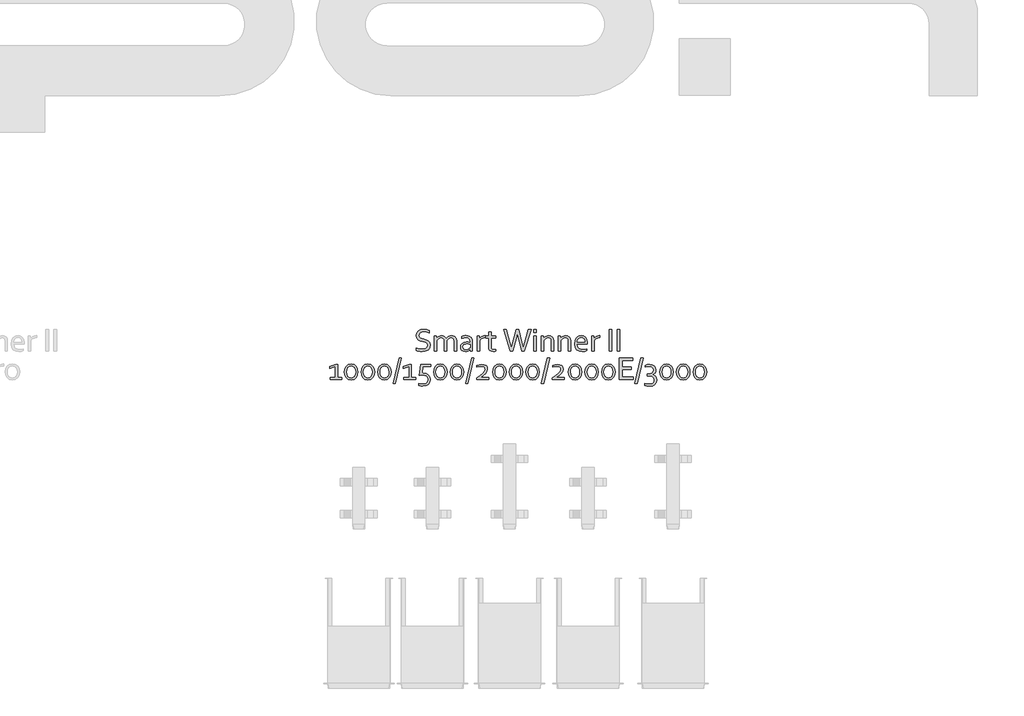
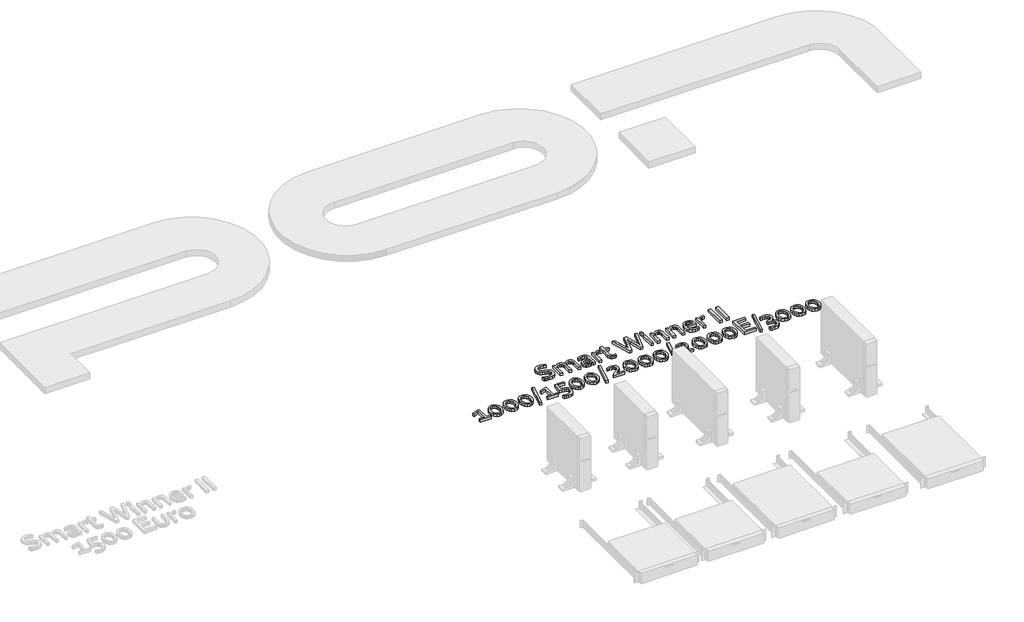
# One storey, part 9 of 10: 1 proxy.
"""IFC4 building model written with IfcOpenShell, lengths in millimetres."""

from ifc_helpers import new_model, si_unit, origin, origin_with_axes, place, context, project, spatial, polyline, outline, extrude, element, save

model = new_model("IFC4")

# Units and contexts
model_context = context("Model", 3, world=origin())
ifc_project = project(units=[si_unit("LENGTHUNIT", "METRE", prefix="MILLI")], contexts=[model_context])

# Site, building, storey
site = spatial("IfcSite", under=ifc_project)
building = spatial("IfcBuilding", under=site)
storey = spatial("IfcBuildingStorey", under=building, Name="Этаж 01", Elevation=0.0)

# Proxy
placement = place(None, origin())
element("IfcBuildingElementProxy", 1, Name="150 мм Corbel", ObjectType="150 мм Corbel", at=placement, inside=storey, context=model_context, shape_type="SweptSolid", body=[
    extrude(outline(polyline([(8243.4945132, 936.8855088), (8246.2289116, 925.8822898), (8253.5570992, 918.7072285), (8264.2321904, 914.0696889), (8276.9197988, 910.6790349), (8294.3980731, 905.9321193), (8309.6888288, 898.757058), (8320.5389215, 886.8350812), (8324.695207, 867.9786701), (8320.2107937, 847.722247), (8307.8294379, 833.7002522), (8289.2792794, 825.5626827), (8265.938455, 822.9157851), (8254.0164781, 823.6376662), (8242.3570035, 825.5845579), (8232.3162927, 828.3845818), (8225.2506073, 831.4908583), (8225.2506073, 848.1160004), (8234.3288099, 844.681596), (8244.763274, 842.0346984), (8255.6352419, 840.3284338), (8265.938455, 839.7159286), (8280.922958, 841.050315), (8293.4136897, 845.5128531), (8301.9450126, 854.0223008), (8305.0950395, 867.5411663), (8302.2950156, 878.7193868), (8294.8355769, 886.0038241), (8284.0729849, 890.6851141), (8271.2322502, 894.0976432), (8253.8196014, 898.6476821), (8238.6600969, 905.7133675), (8227.9412553, 917.3509669), (8223.8943457, 935.5292472), (8228.138132, 955.3481665), (8239.6226051, 969.0857839), (8256.1821216, 977.1139775), (8276.0447913, 979.7171247), (8298.4012323, 977.4202301), (8317.3888945, 971.4483041), (8317.3888945, 954.5169094), (8298.1606053, 960.5107106), (8276.9197988, 962.9169812), (8262.1102973, 961.0794655), (8251.6977083, 955.8512958), (8245.5289056, 947.6262256), (8243.4945132, 936.8855088)])), origin_with_axes(), (0.0, 0.0, 1.0), 20.0),
    extrude(outline(polyline([(8439.4961878, 825.715809), (8422.6960443, 825.715809), (8422.6960443, 894.7976492), (8421.1647812, 906.7196261), (8416.7022431, 914.8134452), (8409.7240584, 919.4509848), (8400.6458559, 920.9166224), (8383.4300838, 915.6884527), (8369.4955897, 901.3164549), (8369.4955897, 825.715809), (8352.6954462, 825.715809), (8352.6954462, 932.116718), (8366.126811, 932.116718), (8369.4518394, 917.3290917), (8376.1456466, 924.1979004), (8383.7363364, 929.8198234), (8392.9457901, 933.5823556), (8403.9271339, 934.916742), (8414.7772266, 933.489386), (8423.6148021, 929.2073182), (8435.6899053, 913.6540603), (8452.3806729, 929.2729438), (8473.6652297, 934.916742), (8485.6090818, 933.3417285), (8497.2029308, 927.5666792), (8505.996756, 915.9728301), (8509.4967859, 896.9414175), (8509.4967859, 825.715809), (8492.6966423, 825.715809), (8492.6966423, 894.7976492), (8491.1653793, 906.7196261), (8486.7247163, 914.8134452), (8479.7684069, 919.4509848), (8470.6902043, 920.9166224), (8453.4525571, 915.6884527), (8439.4961878, 901.3164549), (8439.4961878, 825.715809)])), origin_with_axes(), (0.0, 0.0, 1.0), 20.0),
    extrude(outline(polyline([(8605.2226037, 837.4846595), (8599.4256792, 832.1689891), (8592.0099909, 827.4439487), (8582.8224124, 824.1407955), (8572.1910715, 822.9157851), (8558.1690767, 825.1689293), (8547.2096081, 831.7971109), (8540.056422, 842.450327), (8537.4970251, 856.6910736), (8540.3407994, 870.6911932), (8548.3033674, 881.1694078), (8560.6190977, 887.7975894), (8576.5223585, 890.1163592), (8591.7693638, 888.6288465), (8604.2600955, 885.2600677), (8604.6975993, 892.8726328), (8604.1288444, 901.207079), (8602.203828, 907.5727583), (8592.9287487, 917.132215), (8575.6473511, 920.9166224), (8560.4440962, 919.4291096), (8546.2908502, 915.3165745), (8546.2908502, 929.0104415), (8552.6127793, 931.3948369), (8560.2909699, 933.2979781), (8568.8004176, 934.5011134), (8577.7911194, 934.916742), (8592.4256194, 933.489386), (8604.0413437, 929.2073182), (8612.7039177, 922.5736678), (8618.478967, 914.091564), (8620.7977368, 906.1946216), (8621.4977428, 896.7226656), (8621.4977428, 825.715809), (8607.1038698, 825.715809), (8605.2226037, 837.4846595)]), holes=[polyline([(8604.6975993, 872.1349556), (8593.081875, 874.7381028), (8578.3161239, 876.1162396), (8560.662848, 871.3474488), (8555.8885885, 865.2989597), (8554.2971686, 856.6910736), (8555.8940573, 847.9409989), (8560.2690947, 841.750321), (8566.8535259, 838.1190399), (8574.9910955, 836.9159047), (8585.5786859, 838.5565437), (8594.2850103, 842.4722021), (8600.7600656, 847.022241), (8604.6975993, 850.5660213), (8604.6975993, 872.1349556)])]), origin_with_axes(), (0.0, 0.0, 1.0), 20.0),
    extrude(outline(polyline([(8712.8922737, 920.9166224), (8699.4609089, 919.7572375), (8688.3045636, 916.2353324), (8678.8982332, 910.3946575), (8671.8981734, 902.1914624), (8671.8981734, 825.715809), (8655.0980299, 825.715809), (8655.0980299, 932.116718), (8668.0918909, 932.116718), (8671.3294186, 915.1853234), (8677.9794754, 922.9291396), (8686.4451727, 929.2073182), (8696.7702609, 933.4073541), (8708.5609867, 934.916742), (8710.8360061, 934.8729916), (8712.8922737, 934.7417405), (8712.8922737, 920.9166224)])), origin_with_axes(), (0.0, 0.0, 1.0), 20.0),
    extrude(outline(polyline([(8786.4804024, 825.3220556), (8779.6553441, 823.7470422), (8768.6740002, 822.9157851), (8754.1926265, 825.015803), (8744.1519157, 831.0096042), (8738.2456153, 840.4378098), (8736.2987236, 852.75354), (8736.2987236, 918.1165984), (8715.7797983, 918.1165984), (8715.7797983, 932.116718), (8736.2987236, 932.116718), (8736.2987236, 960.1169573), (8753.0988672, 960.1169573), (8753.0988672, 932.116718), (8784.9053889, 932.116718), (8784.9053889, 918.1165984), (8753.0988672, 918.1165984), (8753.0988672, 854.5035549), (8754.1488761, 847.4816199), (8757.4957797, 841.9034473), (8763.380205, 838.2284159), (8772.042779, 836.9159047), (8779.3709666, 837.4846595), (8786.4804024, 838.9284219), (8786.4804024, 825.3220556)])), origin_with_axes(), (0.0, 0.0, 1.0), 20.0),
    extrude(outline(polyline([(8939.2567077, 951.9356374), (8930.5941337, 915.5353264), (8907.1439333, 825.715809), (8888.4187733, 825.715809), (8842.6996327, 976.9171008), (8862.2998002, 976.9171008), (8886.975011, 888.1913428), (8896.9938466, 849.7785146), (8902.2657666, 870.2318143), (8906.8814311, 887.9725909), (8929.5003743, 976.9171008), (8949.1005418, 976.9171008), (8971.1507302, 887.9725909), (8980.3383087, 849.7785146), (8991.0571503, 888.1913428), (9016.3011159, 976.9171008), (9035.9012834, 976.9171008), (8989.4821368, 825.715809), (8970.7569768, 825.715809), (8947.7880306, 915.5353264), (8939.2567077, 951.9356374)])), origin_with_axes(), (0.0, 0.0, 1.0), 20.0),
    extrude(outline(polyline([(9055.5014509, 957.3169334), (9055.5014509, 976.9171008), (9072.3015944, 976.9171008), (9072.3015944, 957.3169334), (9055.5014509, 957.3169334)])), origin_with_axes(), (0.0, 0.0, 1.0), 20.0),
    extrude(outline(polyline([(9055.5014509, 825.715809), (9055.5014509, 932.116718), (9072.3015944, 932.116718), (9072.3015944, 825.715809), (9055.5014509, 825.715809)])), origin_with_axes(), (0.0, 0.0, 1.0), 20.0),
    extrude(outline(polyline([(9125.4145482, 917.3290917), (9132.1302306, 924.1979004), (9139.9834227, 929.8198234), (9149.499129, 933.5823556), (9160.7648502, 934.916742), (9174.3712165, 932.9042248), (9185.3744355, 926.4072943), (9192.7682486, 914.7040693), (9195.502647, 896.9414175), (9195.502647, 825.715809), (9178.7025035, 825.715809), (9178.7025035, 894.7976492), (9177.3571795, 906.7579076), (9173.3212075, 914.8134452), (9166.714901, 919.3908281), (9157.6585737, 920.9166224), (9140.1146738, 915.6884527), (9125.5020489, 901.3164549), (9125.5020489, 825.715809), (9108.7019054, 825.715809), (9108.7019054, 932.116718), (9122.0457694, 932.116718), (9125.4145482, 917.3290917)])), origin_with_axes(), (0.0, 0.0, 1.0), 20.0),
    extrude(outline(polyline([(9245.8155769, 917.3290917), (9252.5312592, 924.1979004), (9260.3844513, 929.8198234), (9269.9001576, 933.5823556), (9281.1658789, 934.916742), (9294.7722451, 932.9042248), (9305.7754641, 926.4072943), (9313.1692773, 914.7040693), (9315.9036757, 896.9414175), (9315.9036757, 825.715809), (9299.1035321, 825.715809), (9299.1035321, 894.7976492), (9297.7582082, 906.7579076), (9293.7222362, 914.8134452), (9287.1159297, 919.3908281), (9278.0596023, 920.9166224), (9260.5157025, 915.6884527), (9245.9030776, 901.3164549), (9245.9030776, 825.715809), (9229.1029341, 825.715809), (9229.1029341, 932.116718), (9242.4467981, 932.116718), (9245.8155769, 917.3290917)])), origin_with_axes(), (0.0, 0.0, 1.0), 20.0),
    extrude(outline(polyline([(9399.2481378, 836.9159047), (9415.0201475, 838.3815422), (9429.2171438, 842.5159525), (9429.2171438, 828.6908344), (9415.0857731, 824.4689233), (9397.0168687, 822.9157851), (9375.5573104, 825.8251849), (9358.5384149, 835.2315153), (9347.7320726, 852.2066603), (9343.9039149, 877.4725012), (9347.8851989, 902.7164669), (9358.4727894, 920.5666194), (9373.6979195, 931.3292113), (9391.6793231, 934.916742), (9408.173214, 931.9854669), (9421.4733277, 922.7541381), (9430.3765287, 906.5008742), (9433.6359316, 882.6350453), (9433.6359316, 880.381901), (9433.5046804, 876.1162396), (9359.7853006, 876.1162396), (9362.869702, 857.9160841), (9371.2916489, 845.7972306), (9383.8042558, 839.0377978), (9399.2481378, 836.9159047)]), holes=[polyline([(9390.9355667, 920.9166224), (9379.4292184, 918.4884766), (9370.1541392, 911.8821702), (9363.7228342, 902.1039616), (9360.7040584, 890.1163592), (9416.7045369, 890.1163592), (9415.0201475, 902.2133376), (9410.0544801, 911.9915461), (9402.0044113, 918.532227), (9390.9355667, 920.9166224)])]), origin_with_axes(), (0.0, 0.0, 1.0), 20.0),
    extrude(outline(polyline([(9522.0991874, 920.9166224), (9508.6678226, 919.7572375), (9497.5114773, 916.2353324), (9488.1051469, 910.3946575), (9481.1050871, 902.1914624), (9481.1050871, 825.715809), (9464.3049436, 825.715809), (9464.3049436, 932.116718), (9477.2988046, 932.116718), (9480.5363323, 915.1853234), (9487.1863891, 922.9291396), (9495.6520864, 929.2073182), (9505.9771746, 933.4073541), (9517.7679004, 934.916742), (9520.0429198, 934.8729916), (9522.0991874, 934.7417405), (9522.0991874, 920.9166224)])), origin_with_axes(), (0.0, 0.0, 1.0), 20.0),
    extrude(outline(polyline([(9587.5059962, 825.715809), (9587.5059962, 976.9171008), (9607.1061637, 976.9171008), (9607.1061637, 825.715809), (9587.5059962, 825.715809)])), origin_with_axes(), (0.0, 0.0, 1.0), 20.0),
    extrude(outline(polyline([(9643.5064747, 825.715809), (9643.5064747, 976.9171008), (9663.1066421, 976.9171008), (9663.1066421, 825.715809), (9643.5064747, 825.715809)])), origin_with_axes(), (0.0, 0.0, 1.0), 20.0),
    extrude(outline(polyline([(7652.6894655, 639.315498), (7652.6894655, 717.7161678), (7612.2203697, 703.7160482), (7612.2203697, 717.7161678), (7654.9644849, 731.7162874), (7669.489609, 731.7162874), (7669.489609, 639.315498), (7698.8461098, 639.315498), (7698.8461098, 625.3153784), (7616.9016597, 625.3153784), (7616.9016597, 639.315498), (7652.6894655, 639.315498)])), origin_with_axes(), (0.0, 0.0, 1.0), 20.0),
    extrude(outline(polyline([(7812.2908291, 678.3845818), (7809.0751766, 656.290643), (7799.7344718, 638.5498664), (7784.8374695, 626.7810159), (7764.7779231, 622.5153544), (7744.3246234, 626.7810159), (7729.3619955, 638.5498664), (7720.1962922, 656.290643), (7717.0900157, 678.3845818), (7720.3056682, 700.6316469), (7729.646373, 718.438049), (7744.6090008, 730.2506499), (7764.6904224, 734.5163114), (7785.0562214, 730.2506499), (7800.0188492, 718.438049), (7809.1845525, 700.6316469), (7812.2908291, 678.3845818)]), holes=[polyline([(7795.4906855, 678.3845818), (7793.3031669, 696.0378576), (7787.112489, 709.2723457), (7777.4436563, 717.6067919), (7764.6904224, 720.5161917), (7751.9371884, 717.6067919), (7742.2246054, 709.2723457), (7736.0339276, 696.0378576), (7733.8901592, 678.3845818), (7736.0776779, 660.8844323), (7742.2683558, 647.6936946), (7752.002814, 639.4248739), (7764.8216735, 636.5154741), (7777.5530323, 639.4248739), (7787.2218649, 647.6936946), (7793.3469172, 660.8844323), (7795.4906855, 678.3845818)])]), origin_with_axes(), (0.0, 0.0, 1.0), 20.0),
    extrude(outline(polyline([(7929.8918338, 678.3845818), (7926.6761814, 656.290643), (7917.3354766, 638.5498664), (7902.4384743, 626.7810159), (7882.3789279, 622.5153544), (7861.9256281, 626.7810159), (7846.9630003, 638.5498664), (7837.797297, 656.290643), (7834.6910205, 678.3845818), (7837.9066729, 700.6316469), (7847.2473777, 718.438049), (7862.2100056, 730.2506499), (7882.2914272, 734.5163114), (7902.6572262, 730.2506499), (7917.619854, 718.438049), (7926.7855573, 700.6316469), (7929.8918338, 678.3845818)]), holes=[polyline([(7913.0916903, 678.3845818), (7910.9041716, 696.0378576), (7904.7134937, 709.2723457), (7895.0446611, 717.6067919), (7882.2914272, 720.5161917), (7869.5381932, 717.6067919), (7859.8256102, 709.2723457), (7853.6349323, 696.0378576), (7851.491164, 678.3845818), (7853.6786827, 660.8844323), (7859.8693606, 647.6936946), (7869.6038187, 639.4248739), (7882.4226783, 636.5154741), (7895.154037, 639.4248739), (7904.8228697, 647.6936946), (7910.947922, 660.8844323), (7913.0916903, 678.3845818)])]), origin_with_axes(), (0.0, 0.0, 1.0), 20.0),
    extrude(outline(polyline([(8047.4928386, 678.3845818), (8044.2771861, 656.290643), (8034.9364813, 638.5498664), (8020.039479, 626.7810159), (7999.9799327, 622.5153544), (7979.5266329, 626.7810159), (7964.5640051, 638.5498664), (7955.3983018, 656.290643), (7952.2920252, 678.3845818), (7955.5076777, 700.6316469), (7964.8483825, 718.438049), (7979.8110103, 730.2506499), (7999.8924319, 734.5163114), (8020.2582309, 730.2506499), (8035.2208588, 718.438049), (8044.3865621, 700.6316469), (8047.4928386, 678.3845818)]), holes=[polyline([(8030.6926951, 678.3845818), (8028.5051764, 696.0378576), (8022.3144985, 709.2723457), (8012.6456659, 717.6067919), (7999.8924319, 720.5161917), (7987.139198, 717.6067919), (7977.426615, 709.2723457), (7971.2359371, 696.0378576), (7969.0921688, 678.3845818), (7971.2796875, 660.8844323), (7977.4703653, 647.6936946), (7987.2048235, 639.4248739), (8000.023683, 636.5154741), (8012.7550418, 639.4248739), (8022.4238744, 647.6936946), (8028.5489267, 660.8844323), (8030.6926951, 678.3845818)])]), origin_with_axes(), (0.0, 0.0, 1.0), 20.0),
    extrude(outline(polyline([(8060.7054515, 597.3151391), (8103.3183156, 776.5166702), (8119.8997072, 776.5166702), (8077.2868432, 597.3151391), (8060.7054515, 597.3151391)])), origin_with_axes(), (0.0, 0.0, 1.0), 20.0),
    extrude(outline(polyline([(8173.4939151, 639.315498), (8173.4939151, 717.7161678), (8133.0248194, 703.7160482), (8133.0248194, 717.7161678), (8175.7689346, 731.7162874), (8190.2940587, 731.7162874), (8190.2940587, 639.315498), (8219.6505595, 639.315498), (8219.6505595, 625.3153784), (8137.7061094, 625.3153784), (8137.7061094, 639.315498), (8173.4939151, 639.315498)])), origin_with_axes(), (0.0, 0.0, 1.0), 20.0),
    extrude(outline(polyline([(8324.695207, 625.4466295), (8321.2170523, 606.3933417), (8311.0232152, 591.2775876), (8294.0918205, 581.3025023), (8270.8822472, 577.7149717), (8254.6289833, 579.2024844), (8240.7382397, 583.7525233), (8240.7382397, 597.3151391), (8256.4227487, 592.8744762), (8270.0947405, 591.7150913), (8286.6980073, 594.3401137), (8298.4668579, 601.4932998), (8305.5325432, 612.0371399), (8307.8950634, 624.6591228), (8305.4012921, 638.5936168), (8297.5918504, 648.3718254), (8283.9417338, 654.1906251), (8263.838437, 656.1156415), (8244.0632681, 654.9781318), (8254.6946089, 731.7162874), (8325.7452159, 731.7162874), (8325.7452159, 717.7161678), (8271.4947524, 717.7161678), (8265.238449, 669.8970093), (8271.4947524, 670.1157611), (8294.2449468, 667.0969853), (8310.9357144, 658.3687858), (8321.1951771, 644.3686662), (8324.695207, 625.4466295)])), origin_with_axes(), (0.0, 0.0, 1.0), 20.0),
    extrude(outline(polyline([(8442.2962117, 678.3845818), (8439.0805593, 656.290643), (8429.7398545, 638.5498664), (8414.8428522, 626.7810159), (8394.7833058, 622.5153544), (8374.330006, 626.7810159), (8359.3673782, 638.5498664), (8350.2016749, 656.290643), (8347.0953984, 678.3845818), (8350.3110508, 700.6316469), (8359.6517556, 718.438049), (8374.6143835, 730.2506499), (8394.695805, 734.5163114), (8415.061604, 730.2506499), (8430.0242319, 718.438049), (8439.1899352, 700.6316469), (8442.2962117, 678.3845818)]), holes=[polyline([(8425.4960682, 678.3845818), (8423.3085495, 696.0378576), (8417.1178716, 709.2723457), (8407.449039, 717.6067919), (8394.695805, 720.5161917), (8381.9425711, 717.6067919), (8372.2299881, 709.2723457), (8366.0393102, 696.0378576), (8363.8955419, 678.3845818), (8366.0830606, 660.8844323), (8372.2737385, 647.6936946), (8382.0081966, 639.4248739), (8394.8270562, 636.5154741), (8407.5584149, 639.4248739), (8417.2272475, 647.6936946), (8423.3522999, 660.8844323), (8425.4960682, 678.3845818)])]), origin_with_axes(), (0.0, 0.0, 1.0), 20.0),
    extrude(outline(polyline([(8559.8972165, 678.3845818), (8556.681564, 656.290643), (8547.3408592, 638.5498664), (8532.4438569, 626.7810159), (8512.3843106, 622.5153544), (8491.9310108, 626.7810159), (8476.968383, 638.5498664), (8467.8026797, 656.290643), (8464.6964031, 678.3845818), (8467.9120556, 700.6316469), (8477.2527604, 718.438049), (8492.2153882, 730.2506499), (8512.2968098, 734.5163114), (8532.6626088, 730.2506499), (8547.6252366, 718.438049), (8556.79094, 700.6316469), (8559.8972165, 678.3845818)]), holes=[polyline([(8543.097073, 678.3845818), (8540.9095543, 696.0378576), (8534.7188764, 709.2723457), (8525.0500438, 717.6067919), (8512.2968098, 720.5161917), (8499.5435758, 717.6067919), (8489.8309929, 709.2723457), (8483.640315, 696.0378576), (8481.4965467, 678.3845818), (8483.6840653, 660.8844323), (8489.8747432, 647.6936946), (8499.6092014, 639.4248739), (8512.4280609, 636.5154741), (8525.1594197, 639.4248739), (8534.8282523, 647.6936946), (8540.9533046, 660.8844323), (8543.097073, 678.3845818)])]), origin_with_axes(), (0.0, 0.0, 1.0), 20.0),
    extrude(outline(polyline([(8573.1098294, 597.3151391), (8615.7226935, 776.5166702), (8632.3040851, 776.5166702), (8589.6912211, 597.3151391), (8573.1098294, 597.3151391)])), origin_with_axes(), (0.0, 0.0, 1.0), 20.0),
    extrude(outline(polyline([(8680.0794933, 638.8779942), (8703.2671914, 639.315498), (8736.9549792, 639.315498), (8736.9549792, 625.3153784), (8651.6855007, 625.3153784), (8651.6855007, 634.8529599), (8675.4638289, 652.6374868), (8694.2327392, 668.4532469), (8706.614095, 683.1971229), (8711.0985083, 697.6347462), (8709.5289637, 706.2426323), (8704.8203297, 712.5536237), (8697.1694831, 716.4255318), (8686.7733005, 717.7161678), (8669.7981555, 716.1192792), (8652.8230104, 712.11612), (8652.8230104, 724.1912231), (8668.573145, 729.4631432), (8689.1358207, 731.7162874), (8705.2797086, 729.4850184), (8717.5079381, 722.9880879), (8725.1861287, 712.4442478), (8727.8986519, 697.9409989), (8724.3548716, 681.5783591), (8714.5547879, 666.9657342), (8699.3296578, 653.1406161), (8680.0794933, 638.8779942)])), origin_with_axes(), (0.0, 0.0, 1.0), 20.0),
    extrude(outline(polyline([(8859.4997762, 678.3845818), (8856.2841238, 656.290643), (8846.943419, 638.5498664), (8832.0464167, 626.7810159), (8811.9868703, 622.5153544), (8791.5335706, 626.7810159), (8776.5709427, 638.5498664), (8767.4052394, 656.290643), (8764.2989629, 678.3845818), (8767.5146153, 700.6316469), (8776.8553201, 718.438049), (8791.817948, 730.2506499), (8811.8993696, 734.5163114), (8832.2651686, 730.2506499), (8847.2277964, 718.438049), (8856.3934997, 700.6316469), (8859.4997762, 678.3845818)]), holes=[polyline([(8842.6996327, 678.3845818), (8840.512114, 696.0378576), (8834.3214361, 709.2723457), (8824.6526035, 717.6067919), (8811.8993696, 720.5161917), (8799.1461356, 717.6067919), (8789.4335526, 709.2723457), (8783.2428747, 696.0378576), (8781.0991064, 678.3845818), (8783.2866251, 660.8844323), (8789.477303, 647.6936946), (8799.2117612, 639.4248739), (8812.0306207, 636.5154741), (8824.7619795, 639.4248739), (8834.4308121, 647.6936946), (8840.5558644, 660.8844323), (8842.6996327, 678.3845818)])]), origin_with_axes(), (0.0, 0.0, 1.0), 20.0),
    extrude(outline(polyline([(8977.100781, 678.3845818), (8973.8851285, 656.290643), (8964.5444237, 638.5498664), (8949.6474215, 626.7810159), (8929.5878751, 622.5153544), (8909.1345753, 626.7810159), (8894.1719475, 638.5498664), (8885.0062442, 656.290643), (8881.8999676, 678.3845818), (8885.1156201, 700.6316469), (8894.4563249, 718.438049), (8909.4189527, 730.2506499), (8929.5003743, 734.5163114), (8949.8661733, 730.2506499), (8964.8288012, 718.438049), (8973.9945045, 700.6316469), (8977.100781, 678.3845818)]), holes=[polyline([(8960.3006375, 678.3845818), (8958.1131188, 696.0378576), (8951.9224409, 709.2723457), (8942.2536083, 717.6067919), (8929.5003743, 720.5161917), (8916.7471404, 717.6067919), (8907.0345574, 709.2723457), (8900.8438795, 696.0378576), (8898.7001112, 678.3845818), (8900.8876299, 660.8844323), (8907.0783077, 647.6936946), (8916.8127659, 639.4248739), (8929.6316254, 636.5154741), (8942.3629842, 639.4248739), (8952.0318168, 647.6936946), (8958.1568692, 660.8844323), (8960.3006375, 678.3845818)])]), origin_with_axes(), (0.0, 0.0, 1.0), 20.0),
    extrude(outline(polyline([(9094.7017858, 678.3845818), (9091.4861333, 656.290643), (9082.1454285, 638.5498664), (9067.2484262, 626.7810159), (9047.1888798, 622.5153544), (9026.7355801, 626.7810159), (9011.7729522, 638.5498664), (9002.6072489, 656.290643), (8999.5009724, 678.3845818), (9002.7166249, 700.6316469), (9012.0573297, 718.438049), (9027.0199575, 730.2506499), (9047.1013791, 734.5163114), (9067.4671781, 730.2506499), (9082.4298059, 718.438049), (9091.5955092, 700.6316469), (9094.7017858, 678.3845818)]), holes=[polyline([(9077.9016422, 678.3845818), (9075.7141235, 696.0378576), (9069.5234457, 709.2723457), (9059.854613, 717.6067919), (9047.1013791, 720.5161917), (9034.3481451, 717.6067919), (9024.6355621, 709.2723457), (9018.4448842, 696.0378576), (9016.3011159, 678.3845818), (9018.4886346, 660.8844323), (9024.6793125, 647.6936946), (9034.4137707, 639.4248739), (9047.2326302, 636.5154741), (9059.963989, 639.4248739), (9069.6328216, 647.6936946), (9075.7578739, 660.8844323), (9077.9016422, 678.3845818)])]), origin_with_axes(), (0.0, 0.0, 1.0), 20.0),
    extrude(outline(polyline([(9107.9143987, 597.3151391), (9150.5272627, 776.5166702), (9167.1086544, 776.5166702), (9124.4957903, 597.3151391), (9107.9143987, 597.3151391)])), origin_with_axes(), (0.0, 0.0, 1.0), 20.0),
    extrude(outline(polyline([(9214.8840626, 638.8779942), (9238.0717607, 639.315498), (9271.7595485, 639.315498), (9271.7595485, 625.3153784), (9186.49007, 625.3153784), (9186.49007, 634.8529599), (9210.2683982, 652.6374868), (9229.0373085, 668.4532469), (9241.4186643, 683.1971229), (9245.9030776, 697.6347462), (9244.3335329, 706.2426323), (9239.624899, 712.5536237), (9231.9740524, 716.4255318), (9221.5778698, 717.7161678), (9204.6027247, 716.1192792), (9187.6275797, 712.11612), (9187.6275797, 724.1912231), (9203.3777143, 729.4631432), (9223.94039, 731.7162874), (9240.0842779, 729.4850184), (9252.3125074, 722.9880879), (9259.990698, 712.4442478), (9262.7032211, 697.9409989), (9259.1594409, 681.5783591), (9249.3593571, 666.9657342), (9234.1342271, 653.1406161), (9214.8840626, 638.8779942)])), origin_with_axes(), (0.0, 0.0, 1.0), 20.0),
    extrude(outline(polyline([(9394.3043455, 678.3845818), (9391.088693, 656.290643), (9381.7479882, 638.5498664), (9366.850986, 626.7810159), (9346.7914396, 622.5153544), (9326.3381398, 626.7810159), (9311.375512, 638.5498664), (9302.2098087, 656.290643), (9299.1035321, 678.3845818), (9302.3191846, 700.6316469), (9311.6598894, 718.438049), (9326.6225173, 730.2506499), (9346.7039388, 734.5163114), (9367.0697378, 730.2506499), (9382.0323657, 718.438049), (9391.198069, 700.6316469), (9394.3043455, 678.3845818)]), holes=[polyline([(9377.504202, 678.3845818), (9375.3166833, 696.0378576), (9369.1260054, 709.2723457), (9359.4571728, 717.6067919), (9346.7039388, 720.5161917), (9333.9507049, 717.6067919), (9324.2381219, 709.2723457), (9318.047444, 696.0378576), (9315.9036757, 678.3845818), (9318.0911944, 660.8844323), (9324.2818723, 647.6936946), (9334.0163304, 639.4248739), (9346.83519, 636.5154741), (9359.5665487, 639.4248739), (9369.2353813, 647.6936946), (9375.3604337, 660.8844323), (9377.504202, 678.3845818)])]), origin_with_axes(), (0.0, 0.0, 1.0), 20.0),
    extrude(outline(polyline([(9511.9053503, 678.3845818), (9508.6896978, 656.290643), (9499.348993, 638.5498664), (9484.4519907, 626.7810159), (9464.3924443, 622.5153544), (9443.9391446, 626.7810159), (9428.9765168, 638.5498664), (9419.8108134, 656.290643), (9416.7045369, 678.3845818), (9419.9201894, 700.6316469), (9429.2608942, 718.438049), (9444.223522, 730.2506499), (9464.3049436, 734.5163114), (9484.6707426, 730.2506499), (9499.6333704, 718.438049), (9508.7990737, 700.6316469), (9511.9053503, 678.3845818)]), holes=[polyline([(9495.1052067, 678.3845818), (9492.9176881, 696.0378576), (9486.7270102, 709.2723457), (9477.0581776, 717.6067919), (9464.3049436, 720.5161917), (9451.5517096, 717.6067919), (9441.8391267, 709.2723457), (9435.6484488, 696.0378576), (9433.5046804, 678.3845818), (9435.6921991, 660.8844323), (9441.882877, 647.6936946), (9451.6173352, 639.4248739), (9464.4361947, 636.5154741), (9477.1675535, 639.4248739), (9486.8363861, 647.6936946), (9492.9614384, 660.8844323), (9495.1052067, 678.3845818)])]), origin_with_axes(), (0.0, 0.0, 1.0), 20.0),
    extrude(outline(polyline([(9629.506355, 678.3845818), (9626.2907026, 656.290643), (9616.9499978, 638.5498664), (9602.0529955, 626.7810159), (9581.9934491, 622.5153544), (9561.5401494, 626.7810159), (9546.5775215, 638.5498664), (9537.4118182, 656.290643), (9534.3055417, 678.3845818), (9537.5211941, 700.6316469), (9546.8618989, 718.438049), (9561.8245268, 730.2506499), (9581.9059484, 734.5163114), (9602.2717474, 730.2506499), (9617.2343752, 718.438049), (9626.4000785, 700.6316469), (9629.506355, 678.3845818)]), holes=[polyline([(9612.7062115, 678.3845818), (9610.5186928, 696.0378576), (9604.3280149, 709.2723457), (9594.6591823, 717.6067919), (9581.9059484, 720.5161917), (9569.1527144, 717.6067919), (9559.4401314, 709.2723457), (9553.2494535, 696.0378576), (9551.1056852, 678.3845818), (9553.2932039, 660.8844323), (9559.4838818, 647.6936946), (9569.21834, 639.4248739), (9582.0371995, 636.5154741), (9594.7685583, 639.4248739), (9604.4373909, 647.6936946), (9610.5624432, 660.8844323), (9612.7062115, 678.3845818)])]), origin_with_axes(), (0.0, 0.0, 1.0), 20.0),
    extrude(outline(polyline([(9679.9067857, 642.1155219), (9756.8199428, 642.1155219), (9756.8199428, 625.3153784), (9660.3066182, 625.3153784), (9660.3066182, 776.5166702), (9752.6636573, 776.5166702), (9752.6636573, 759.7165267), (9679.9067857, 759.7165267), (9679.9067857, 712.11612), (9744.6135885, 712.11612), (9744.6135885, 695.3159764), (9679.9067857, 695.3159764), (9679.9067857, 642.1155219)])), origin_with_axes(), (0.0, 0.0, 1.0), 20.0),
    extrude(outline(polyline([(9768.7200445, 597.3151391), (9811.3329085, 776.5166702), (9827.9143002, 776.5166702), (9785.3014361, 597.3151391), (9768.7200445, 597.3151391)])), origin_with_axes(), (0.0, 0.0, 1.0), 20.0),
    extrude(outline(polyline([(9892.2273497, 658.5219121), (9903.6024469, 655.3937604), (9913.2275291, 648.678078), (9920.468216, 637.9373612), (9923.508867, 622.9966086), (9920.2932145, 604.3151989), (9910.755633, 590.0088267), (9894.5242443, 580.908749), (9871.6209236, 577.7149717), (9854.2739004, 579.2462348), (9839.6394004, 583.7525233), (9839.6394004, 597.3151391), (9855.5864116, 593.0276025), (9870.3521628, 591.7150913), (9887.6335604, 594.2963633), (9898.7899058, 601.0995465), (9904.8493325, 610.877755), (9906.7087234, 622.4716041), (9904.2532337, 635.2740572), (9896.8867645, 643.9311624), (9885.1233827, 648.8694859), (9869.4771553, 650.5155937), (9857.5770536, 650.5155937), (9857.5770536, 664.5157133), (9864.5333631, 664.5157133), (9881.0928796, 666.703232), (9892.4679767, 672.7407836), (9899.0305328, 681.8189861), (9901.1086756, 693.0847074), (9898.8117809, 704.1098016), (9892.5336023, 711.766117), (9883.1710223, 716.2505303), (9871.6209236, 717.7161678), (9856.2426672, 716.2067799), (9840.995662, 712.11612), (9840.995662, 725.5912351), (9858.5395619, 730.381901), (9873.2834378, 731.7162874), (9892.6867286, 728.850638), (9906.6430979, 720.8224444), (9914.9994193, 708.6160901), (9917.9088191, 693.0847074), (9916.5525575, 682.1908643), (9912.1118946, 672.3907806), (9904.1493265, 664.362587), (9892.2273497, 658.5219121)])), origin_with_axes(), (0.0, 0.0, 1.0), 20.0),
    extrude(outline(polyline([(10041.1098717, 678.3845818), (10037.8942192, 656.290643), (10028.5535144, 638.5498664), (10013.6565122, 626.7810159), (9993.5969658, 622.5153544), (9973.143666, 626.7810159), (9958.1810382, 638.5498664), (9949.0153349, 656.290643), (9945.9090583, 678.3845818), (9949.1247108, 700.6316469), (9958.4654156, 718.438049), (9973.4280435, 730.2506499), (9993.509465, 734.5163114), (10013.875264, 730.2506499), (10028.8378919, 718.438049), (10038.0035952, 700.6316469), (10041.1098717, 678.3845818)]), holes=[polyline([(10024.3097282, 678.3845818), (10022.1222095, 696.0378576), (10015.9315316, 709.2723457), (10006.262699, 717.6067919), (9993.509465, 720.5161917), (9980.7562311, 717.6067919), (9971.0436481, 709.2723457), (9964.8529702, 696.0378576), (9962.7092019, 678.3845818), (9964.8967206, 660.8844323), (9971.0873985, 647.6936946), (9980.8218566, 639.4248739), (9993.6407161, 636.5154741), (10006.3720749, 639.4248739), (10016.0409075, 647.6936946), (10022.1659599, 660.8844323), (10024.3097282, 678.3845818)])]), origin_with_axes(), (0.0, 0.0, 1.0), 20.0),
    extrude(outline(polyline([(10158.7108765, 678.3845818), (10155.495224, 656.290643), (10146.1545192, 638.5498664), (10131.2575169, 626.7810159), (10111.1979705, 622.5153544), (10090.7446708, 626.7810159), (10075.7820429, 638.5498664), (10066.6163396, 656.290643), (10063.5100631, 678.3845818), (10066.7257156, 700.6316469), (10076.0664204, 718.438049), (10091.0290482, 730.2506499), (10111.1104698, 734.5163114), (10131.4762688, 730.2506499), (10146.4388966, 718.438049), (10155.6045999, 700.6316469), (10158.7108765, 678.3845818)]), holes=[polyline([(10141.9107329, 678.3845818), (10139.7232143, 696.0378576), (10133.5325364, 709.2723457), (10123.8637038, 717.6067919), (10111.1104698, 720.5161917), (10098.3572358, 717.6067919), (10088.6446528, 709.2723457), (10082.453975, 696.0378576), (10080.3102066, 678.3845818), (10082.4977253, 660.8844323), (10088.6884032, 647.6936946), (10098.4228614, 639.4248739), (10111.2417209, 636.5154741), (10123.9730797, 639.4248739), (10133.6419123, 647.6936946), (10139.7669646, 660.8844323), (10141.9107329, 678.3845818)])]), origin_with_axes(), (0.0, 0.0, 1.0), 20.0),
    extrude(outline(polyline([(10276.3118812, 678.3845818), (10273.0962288, 656.290643), (10263.755524, 638.5498664), (10248.8585217, 626.7810159), (10228.7989753, 622.5153544), (10208.3456755, 626.7810159), (10193.3830477, 638.5498664), (10184.2173444, 656.290643), (10181.1110679, 678.3845818), (10184.3267203, 700.6316469), (10193.6674251, 718.438049), (10208.630053, 730.2506499), (10228.7114746, 734.5163114), (10249.0772736, 730.2506499), (10264.0399014, 718.438049), (10273.2056047, 700.6316469), (10276.3118812, 678.3845818)]), holes=[polyline([(10259.5117377, 678.3845818), (10257.324219, 696.0378576), (10251.1335411, 709.2723457), (10241.4647085, 717.6067919), (10228.7114746, 720.5161917), (10215.9582406, 717.6067919), (10206.2456576, 709.2723457), (10200.0549797, 696.0378576), (10197.9112114, 678.3845818), (10200.0987301, 660.8844323), (10206.289408, 647.6936946), (10216.0238662, 639.4248739), (10228.8427257, 636.5154741), (10241.5740844, 639.4248739), (10251.2429171, 647.6936946), (10257.3679694, 660.8844323), (10259.5117377, 678.3845818)])]), origin_with_axes(), (0.0, 0.0, 1.0), 20.0),
])

save(model, "model.ifc")
